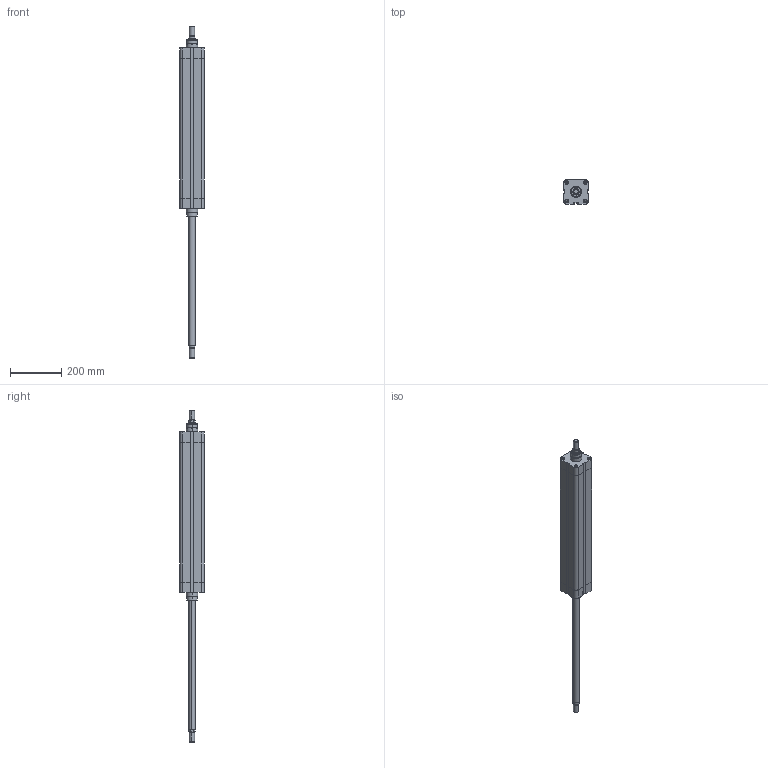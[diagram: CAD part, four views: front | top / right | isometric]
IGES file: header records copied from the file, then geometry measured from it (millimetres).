
Global section: file name: No Iges File Name specified; native system: AutoDesk Inventor R6.1; preprocessor: AutoDesk Inventor Iges Exporter R6.1; author: No Author specified; organization: No Organization specified; date: 20040107.171449; units: millimetre
Bounding box: 95.5 x 95.5 x 1300 mm (x, y, z)
Volume: 5862113.2 mm3; surface area: 450728.2 mm2
Topology: 2 solids, 2 shells, 236 faces, 564 edges, 356 vertices
Faces by surface type: plane 80, bspline 62, cylinder 42, revolution 32, cone 16, torus 4
